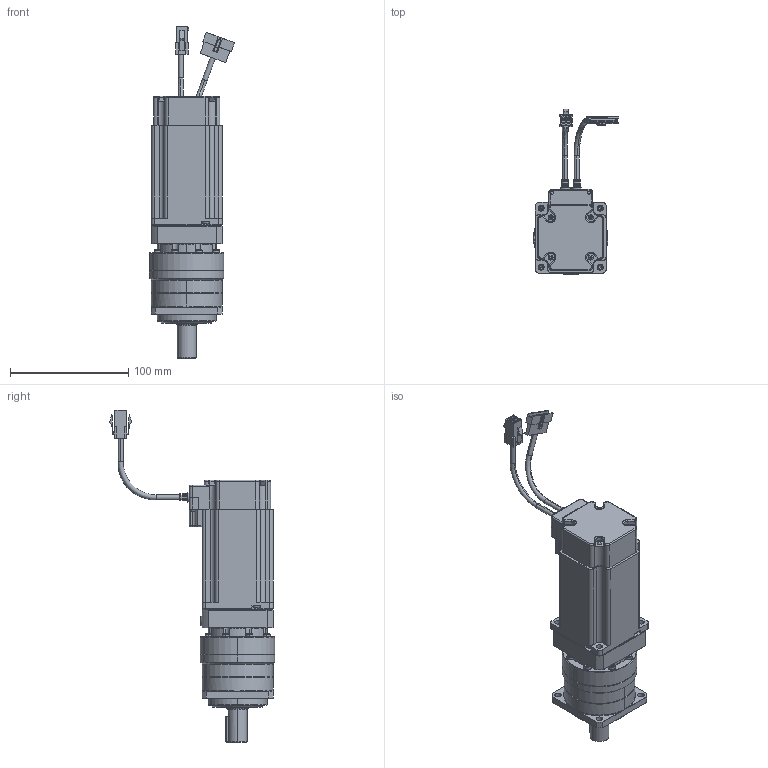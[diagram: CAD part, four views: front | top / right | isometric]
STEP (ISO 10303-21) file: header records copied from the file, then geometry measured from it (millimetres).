
FILE_DESCRIPTION (( 'STEP AP203' ), '1' );
FILE_NAME ('Ezi-SERVO PG-PR-60L-85-PN3~10 130416.STEP', '2013-12-04T02:35:49', ( '' ), ( '' ), 'SwSTEP 2.0', 'SolidWorks 2012', '' );
FILE_SCHEMA (( 'CONFIG_CONTROL_DESIGN' ));
Length unit declared in the file: millimetre
Products named in the file (14): Ezi-SERVO PG-PR-60L-85-PN3~10 130416; ST56 1ST; MainM3-screw12-1-2_1; MainM3-screw11-1-2_1; MainM3-screw10-1-2_1; MainM3-screw9-1-2_1; MainM3-screw8-1-2_1; MainM3-screw7-1-2_1; Main60_Encoder_Plate-1-2_1; MainEZSV_60_Encoder_Cover-1-2_1; MainEZSV_60_Cable_Cover-1-2_1; MainEncoder_Cable_60-1-2_1; MainPower_Cable_60-1-2_1; MainEzM-60L-1_1
Assembly tree (13 placements, depth 2):
  Ezi-SERVO PG-PR-60L-85-PN3~10 130416
    MainEzM-60L-1_1
    MainPower_Cable_60-1-2_1
    MainEncoder_Cable_60-1-2_1
    MainEZSV_60_Cable_Cover-1-2_1
    MainEZSV_60_Encoder_Cover-1-2_1
    Main60_Encoder_Plate-1-2_1
    MainM3-screw7-1-2_1
    MainM3-screw8-1-2_1
    MainM3-screw9-1-2_1
    MainM3-screw10-1-2_1
    MainM3-screw11-1-2_1
    MainM3-screw12-1-2_1
    ST56 1ST
Bounding box: 71.99 x 140.14 x 281 mm (x, y, z)
Volume: 532214.2 mm3; surface area: 97090.8 mm2
Topology: 13 solids, 13 shells, 1375 faces, 3599 edges, 2288 vertices
Faces by surface type: plane 695, cylinder 445, cone 115, torus 57, bspline 49, sphere 14
Entity records: 47222 total; most frequent: CARTESIAN_POINT 12360, ORIENTED_EDGE 7030, DIRECTION 6859, EDGE_CURVE 3515, AXIS2_PLACEMENT_3D 2477, VERTEX_POINT 2278, VECTOR 1905, LINE 1905
